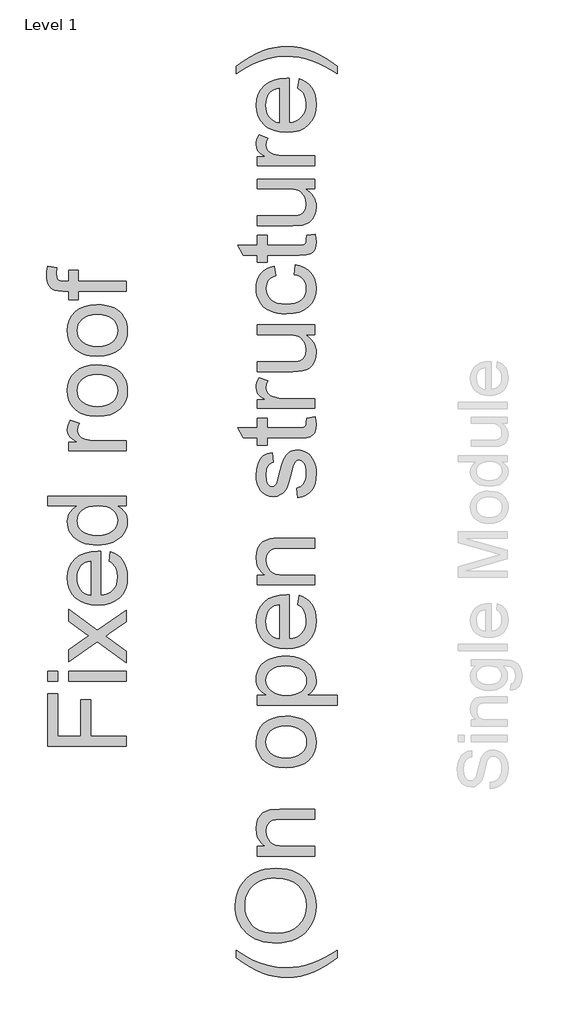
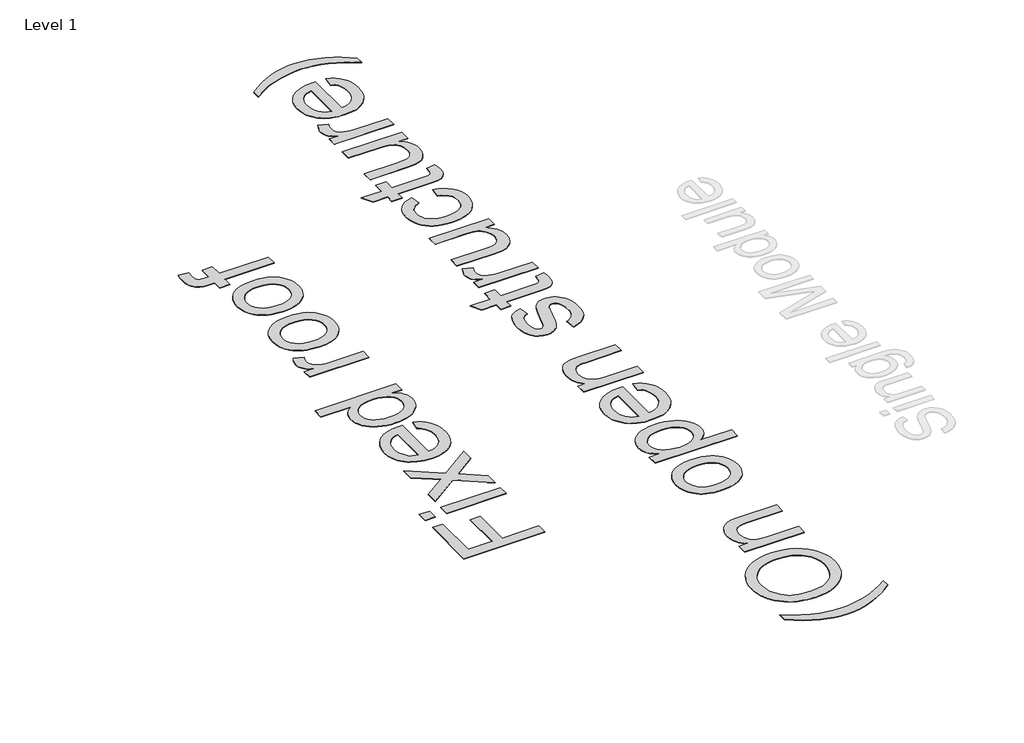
# One storey, part 54 of 80: 1 proxy.
"""IFC4 building model written with IfcOpenShell, lengths in millimetres."""

import ifcopenshell
import ifcopenshell.guid

model = None  # the IFC model being written
_history = None  # IfcOwnerHistory: only IFC2X3 demands one
_inside = {}  # id of a spatial element -> (the spatial element, [elements in it])
_under = {}  # id of a project, library or spatial element -> (it, [spatial elements below it])
_declared = {}  # id of a project -> (the project, [libraries it declares])
_typed = {}  # id of a type object -> (the type object, [elements of that type])
_made_of = {}  # id of a material, layer set ... -> (it, [elements and type objects made of it])


def new_model(schema):
    """Start an empty IFC model of exactly this schema.

    Asked for "IFC4X3", IfcOpenShell would pick the latest addendum, in which some entities
    have other attributes; the version numbers below select the first issue.
    IFC2X3 requires an IfcOwnerHistory on every rooted entity: one is made here for all.
    """
    global model, _history
    if schema == "IFC4X3":
        model = ifcopenshell.file(schema_version=(4, 3, 0, 0))
    else:
        model = ifcopenshell.file(schema=schema)
    _inside.clear()
    _under.clear()
    _declared.clear()
    _typed.clear()
    _made_of.clear()
    _history = None
    if model.schema == "IFC2X3":
        org = make("IfcOrganization", Name="unknown")
        user = make(
            "IfcPersonAndOrganization",
            ThePerson=make("IfcPerson", FamilyName="unknown"),
            TheOrganization=org,
        )
        app = make(
            "IfcApplication",
            ApplicationDeveloper=org,
            Version="unknown",
            ApplicationFullName="unknown",
            ApplicationIdentifier="unknown",
        )
        _history = make(
            "IfcOwnerHistory",
            OwningUser=user,
            OwningApplication=app,
            ChangeAction="ADDED",
            CreationDate=0,
        )
    return model


def make(cls, **values):
    """One entity of the class cls with the attributes given. An attribute that is None is left unset."""
    return model.create_entity(
        cls, **{name: value for name, value in values.items() if value is not None}
    )


def rooted(cls, **values):
    """An entity with a GlobalId (a new one), such as an element, a storey or a relation."""
    return make(cls, GlobalId=ifcopenshell.guid.new(), OwnerHistory=_history, **values)


def si_unit(unit_type, name, prefix=None):
    """IfcSIUnit, for example si_unit("LENGTHUNIT", "METRE", prefix="MILLI")."""
    return make("IfcSIUnit", UnitType=unit_type, Prefix=prefix, Name=name)


def assignment(units):
    """IfcUnitAssignment: the units of a project."""
    return None if units is None else make("IfcUnitAssignment", Units=units)


def point(xyz):
    """IfcCartesianPoint."""
    return None if xyz is None else make("IfcCartesianPoint", Coordinates=xyz)


def direction(xyz):
    """IfcDirection."""
    return None if xyz is None else make("IfcDirection", DirectionRatios=xyz)


def frame(location, z_axis=None, x_axis=None):
    """IfcAxis2Placement3D, a coordinate frame: its origin and axes. An axis left out is left unset."""
    return make(
        "IfcAxis2Placement3D",
        Location=point(location),
        Axis=direction(z_axis),
        RefDirection=direction(x_axis),
    )


def origin():
    """The frame at (0, 0, 0) with its axes left unset."""
    return frame((0.0, 0.0, 0.0))


def origin_with_axes():
    """The frame at (0, 0, 0) with the z axis (0, 0, 1) and the x axis (1, 0, 0) written out."""
    return frame((0.0, 0.0, 0.0), z_axis=(0.0, 0.0, 1.0), x_axis=(1.0, 0.0, 0.0))


def place(relative_to, where):
    """IfcLocalPlacement: puts the frame where relative to a parent placement (None: the world)."""
    return make(
        "IfcLocalPlacement", PlacementRelTo=relative_to, RelativePlacement=where
    )


def context(
    kind, dimensions, precision=None, world=None, true_north=None, identifier=None
):
    """IfcGeometricRepresentationContext, for example the 3D "Model" context."""
    return make(
        "IfcGeometricRepresentationContext",
        ContextIdentifier=identifier,
        ContextType=kind,
        CoordinateSpaceDimension=dimensions,
        Precision=precision,
        WorldCoordinateSystem=world,
        TrueNorth=true_north,
    )


def project(units=None, contexts=None):
    """IfcProject with its units and contexts."""
    return rooted(
        "IfcProject",
        Name="project",
        RepresentationContexts=contexts,
        UnitsInContext=assignment(units),
    )


def spatial(cls, under=None, at=None, **own):
    """A site, building, storey or space (cls), placed at a placement, below another one or the project."""
    s = rooted(cls, ObjectPlacement=at, **own)
    if under is not None:
        _under.setdefault(under.id(), (under, []))[1].append(s)
    return s


def polyline(points):
    """IfcPolyline through the points."""
    return make("IfcPolyline", Points=[point(p) for p in points])


def outline(outer, holes=None, kind="AREA"):
    """IfcArbitraryClosedProfileDef: a profile drawn as a closed curve; with holes, ...WithVoids."""
    if holes is None:
        return make("IfcArbitraryClosedProfileDef", ProfileType=kind, OuterCurve=outer)
    return make(
        "IfcArbitraryProfileDefWithVoids",
        ProfileType=kind,
        OuterCurve=outer,
        InnerCurves=holes,
    )


def extrude(swept, where, along, depth):
    """IfcExtrudedAreaSolid: the profile swept, set in the frame where, extruded along a direction by depth."""
    return make(
        "IfcExtrudedAreaSolid",
        SweptArea=swept,
        Position=where,
        ExtrudedDirection=direction(along),
        Depth=depth,
    )


def shape(context_of_items, identifier, shape_type, items):
    """IfcShapeRepresentation: the items that make up one representation, for example the "Body"."""
    return make(
        "IfcShapeRepresentation",
        ContextOfItems=context_of_items,
        RepresentationIdentifier=identifier,
        RepresentationType=shape_type,
        Items=items,
    )


def made_of(thing, what):
    """Note that an element or type object is made of a material, layer set ...; save() writes the relation."""
    if what is not None:
        _made_of.setdefault(what.id(), (what, []))[1].append(thing)
    return thing


def element(
    cls,
    number,
    at=None,
    inside=None,
    cuts=None,
    type_object=None,
    material=None,
    context=None,
    identifier="Body",
    shape_type=None,
    held_by="IfcProductDefinitionShape",
    body=None,
    shapes=None,
    **own,
):
    """One element of the class cls, such as IfcWall. Its Tag is "e" and its number.

    at: its placement. inside: the storey or other place that contains it. cuts: it is an
    opening in that element (IfcRelVoidsElement). A single representation is given by context,
    identifier, shape_type and body (its items); several are given by shapes. held_by: the class
    of the entity that holds the representations. save() writes the other relations.
    """
    e = rooted(cls, Tag="e%d" % number, ObjectPlacement=at, **own)
    if body is not None:
        shapes = [shape(context, identifier, shape_type, body)]
    if shapes is not None:
        e.Representation = make(held_by, Representations=shapes)
    if inside is not None:
        _inside.setdefault(inside.id(), (inside, []))[1].append(e)
    if cuts is not None:
        rooted(
            "IfcRelVoidsElement", RelatingBuildingElement=cuts, RelatedOpeningElement=e
        )
    if type_object is not None:
        _typed.setdefault(type_object.id(), (type_object, []))[1].append(e)
    return made_of(e, material)


def aggregate(whole, parts):
    """IfcRelAggregates: a whole, such as a stair, and the parts it consists of."""
    return rooted("IfcRelAggregates", RelatingObject=whole, RelatedObjects=parts)


def save(model, path):
    """Write the relations noted so far, then the file.

    IfcRelAggregates (storeys below a building ...), IfcRelContainedInSpatialStructure (elements
    in a storey), IfcRelDefinesByType, IfcRelAssociatesMaterial and IfcRelDeclares: one each for
    every whole, place, type object, material and project.
    """
    for whole, parts in _under.values():
        aggregate(whole, parts)
    for where, things in _inside.values():
        rooted(
            "IfcRelContainedInSpatialStructure",
            RelatedElements=things,
            RelatingStructure=where,
        )
    for kind, things in _typed.values():
        rooted("IfcRelDefinesByType", RelatedObjects=things, RelatingType=kind)
    for what, things in _made_of.values():
        rooted("IfcRelAssociatesMaterial", RelatedObjects=things, RelatingMaterial=what)
    for by, libraries in _declared.values():
        rooted("IfcRelDeclares", RelatingContext=by, RelatedDefinitions=libraries)
    model.write(path)


model = new_model("IFC4")

# Units and contexts
model_context = context("Model", 3, world=origin())
ifc_project = project(units=[si_unit("LENGTHUNIT", "METRE", prefix="MILLI")], contexts=[model_context])

# Site, building, storey
site = spatial("IfcSite", under=ifc_project)
building = spatial("IfcBuilding", under=site)
storey = spatial("IfcBuildingStorey", under=building, Name="Level 1", Elevation=0.0)

# Proxy
placement = place(None, origin())
element("IfcBuildingElementProxy", 1, Name="800mm Arial", ObjectType="800mm Arial", at=placement, inside=storey, context=model_context, shape_type="SweptSolid", body=[
    extrude(outline(polyline([(70531.971127, 66013.7751549), (69732.5824286, 66013.7751549), (69732.5824286, 66550.8644366), (69832.5060159, 66550.8644366), (69832.5060159, 66113.6987422), (70069.8245357, 66113.6987422), (70069.8245357, 66488.4121945), (70169.748123, 66488.4121945), (70169.748123, 66113.6987422), (70531.971127, 66113.6987422), (70531.971127, 66013.7751549)])), origin_with_axes(), (0.0, 0.0, 1.0), 5.0),
    extrude(outline(polyline([(69832.5060159, 66675.7689207), (69732.5824286, 66675.7689207), (69732.5824286, 66775.692508), (69832.5060159, 66775.692508), (69832.5060159, 66675.7689207)])), origin_with_axes(), (0.0, 0.0, 1.0), 5.0),
    extrude(outline(polyline([(70531.971127, 66675.7689207), (69944.9200516, 66675.7689207), (69944.9200516, 66775.692508), (70531.971127, 66775.692508), (70531.971127, 66675.7689207)])), origin_with_axes(), (0.0, 0.0, 1.0), 5.0),
    extrude(outline(polyline([(70531.971127, 66863.1256469), (70236.8842832, 67076.6342494), (69944.9200516, 66875.6160953), (69944.9200516, 66995.8366612), (70085.4375962, 67092.8327997), (70151.7931034, 67138.1106752), (70097.5377181, 67177.3384897), (69944.9200516, 67287.8008929), (69944.9200516, 67408.0214588), (70236.8842832, 67196.8548154), (70531.971127, 67400.2149286), (70531.971127, 67279.9943626), (70354.5677269, 67157.6270008), (70322.1706263, 67135.1832263), (70531.971127, 66983.3462128), (70531.971127, 66863.1256469)])), origin_with_axes(), (0.0, 0.0, 1.0), 5.0),
    extrude(outline(polyline([(70357.1048492, 67898.6618855), (70369.5952976, 67996.6338402), (70408.8353099, 67981.6123683), (70443.4157994, 67961.3336862), (70473.3367661, 67935.7977939), (70498.5982101, 67905.0046913), (70518.6634324, 67869.2715188), (70532.9957341, 67828.9154167), (70541.595115, 67783.936385), (70544.4615754, 67734.3344236), (70539.5154066, 67672.3334966), (70524.6769002, 67617.0900973), (70499.9460563, 67568.6042258), (70465.3228749, 67526.875882), (70421.7709744, 67493.3199996), (70370.2539736, 67469.3515122), (70310.7718723, 67454.9704197), (70243.3246707, 67450.1767222), (70173.5903996, 67455.0192105), (70112.1261716, 67469.5466754), (70058.9319865, 67493.7591169), (70035.4361601, 67509.4972039), (70014.0078444, 67527.656535), (69978.3173639, 67569.2750995), (69952.8241635, 67616.6509799), (69937.5282433, 67669.7841765), (69932.4296032, 67728.6746891), (69937.5160456, 67785.6684589), (69952.7753727, 67837.2098551), (69978.2075845, 67883.2988779), (70013.8126811, 67923.9355272), (70058.6392416, 67957.1071819), (70111.735845, 67980.801221), (70173.1024915, 67995.0176445), (70242.7391809, 67999.7564523), (70269.6717103, 67999.1709626), (70269.6717103, 67550.1003095), (70309.5460031, 67555.8881198), (70344.4680283, 67567.3966531), (70374.4377859, 67584.6259093), (70399.4552758, 67607.5758885), (70419.1789624, 67634.9780295), (70433.26731, 67665.5637711), (70441.7203186, 67699.3331133), (70444.5379881, 67736.2860561), (70439.317371, 67789.4680435), (70423.6555196, 67834.2580109), (70411.6651771, 67853.505987), (70396.5766178, 67870.6559582), (70378.3898419, 67885.7079243), (70357.1048492, 67898.6618855)]), holes=[polyline([(70169.748123, 67550.1003095), (70169.748123, 67899.832865), (70141.4738462, 67894.6976318), (70116.9564622, 67886.3178095), (70096.1959708, 67874.6933981), (70079.192372, 67859.8243975), (70058.7002301, 67832.5747278), (70044.0629859, 67801.5681654), (70035.2806393, 67766.8047104), (70032.3531905, 67728.2843626), (70034.6890507, 67693.1488776), (70041.6966314, 67660.9286438), (70053.3759325, 67631.623661), (70069.7269541, 67605.2339294), (70089.9934385, 67583.0889987), (70113.4191281, 67566.5184185), (70140.004023, 67555.5221887), (70169.748123, 67550.1003095)])]), origin_with_axes(), (0.0, 0.0, 1.0), 5.0),
    extrude(outline(polyline([(70531.971127, 68461.9030436), (70437.7072741, 68461.9030436), (70484.4122809, 68432.0064722), (70502.7606764, 68414.6887826), (70517.7730001, 68395.7914904), (70529.4492518, 68375.3145956), (70537.7894315, 68353.2580982), (70542.7935394, 68329.6219982), (70544.4615754, 68304.4062956), (70542.0464301, 68271.4237053), (70534.8009942, 68239.8072577), (70522.7252677, 68209.556953), (70505.8192506, 68180.672791), (70484.5891476, 68154.0574019), (70459.5411634, 68130.6134158), (70430.675298, 68110.3408325), (70397.9915514, 68093.2396522), (70362.1120065, 68079.6636081), (70323.6587461, 68069.9664338), (70282.6317703, 68064.1481292), (70239.0310791, 68062.2086944), (70196.2293374, 68063.9956579), (70155.4524145, 68069.3565486), (70116.7003104, 68078.2913665), (70079.9730251, 68090.8001114), (70046.3439564, 68106.8766847), (70016.8865024, 68126.5149874), (69991.600663, 68149.7150195), (69970.4864382, 68176.476781), (69953.8365729, 68205.85495), (69941.943812, 68236.9042043), (69934.8081554, 68269.624544), (69932.4296032, 68304.0159691), (69934.1311828, 68329.1676338), (69939.2359218, 68352.9043648), (69947.74382, 68375.2261623), (69959.6548775, 68396.1330261), (69990.9541847, 68432.7749275), (70030.4015579, 68461.9030436), (69732.5824286, 68461.9030436), (69732.5824286, 68561.8266308), (70531.971127, 68561.8266308), (70531.971127, 68461.9030436)]), holes=[polyline([(70238.6407525, 68162.1322817), (70287.0961298, 68164.9499512), (70329.0257357, 68173.4029597), (70364.4295702, 68187.4913073), (70393.3076333, 68207.2149939), (70415.7209135, 68230.7687594), (70431.7303994, 68256.3473437), (70441.3360909, 68283.9507468), (70444.5379881, 68313.5789687), (70441.4824633, 68343.3474641), (70432.3158891, 68370.7861982), (70417.0382655, 68395.8951709), (70395.6495923, 68418.6743823), (70367.9791019, 68437.5869216), (70333.8560263, 68451.0958782), (70293.2803655, 68459.2012522), (70246.2521195, 68461.9030436), (70194.6924267, 68459.1524614), (70150.4757514, 68450.900715), (70113.6020937, 68437.1478042), (70084.0714534, 68417.8937292), (70061.4447134, 68394.614412), (70045.2827562, 68368.7857748), (70035.5855819, 68340.4078176), (70032.3531905, 68309.4805403), (70035.457506, 68279.2668286), (70044.7704527, 68251.6634256), (70060.2920304, 68226.670331), (70082.0222393, 68204.2875451), (70110.4367896, 68185.8446173), (70146.011392, 68172.6710975), (70188.7460463, 68164.7669856), (70238.6407525, 68162.1322817)])]), origin_with_axes(), (0.0, 0.0, 1.0), 5.0),
    extrude(outline(polyline([(70531.971127, 69023.9732221), (69944.9200516, 69023.9732221), (69944.9200516, 69111.406361), (70031.7677007, 69111.406361), (69981.4155806, 69143.7058799), (69963.9972599, 69158.9042185), (69951.7507656, 69173.4682765), (69937.2598938, 69203.3282547), (69932.4296032, 69235.9205186), (69934.3568404, 69260.7062521), (69940.1385518, 69285.6871489), (69949.7747376, 69310.863209), (69963.2653977, 69336.2344324), (70052.8453324, 69302.8615155), (70037.476226, 69267.7321294), (70032.3531905, 69232.6027432), (70037.2810627, 69202.7671604), (70052.0646794, 69176.1029805), (70075.5818518, 69154.561836), (70106.7103912, 69140.0953597), (70162.5270825, 69127.9464469), (70223.4180185, 69123.8968094), (70531.971127, 69123.8968094), (70531.971127, 69023.9732221)])), origin_with_axes(), (0.0, 0.0, 1.0), 5.0),
    extrude(outline(polyline([(70238.4455893, 69373.7057776), (70162.4173032, 69379.1093603), (70128.3460678, 69385.8638386), (70096.9034376, 69395.3201082), (70068.0894124, 69407.4781692), (70041.9039924, 69422.3380216), (70018.3471774, 69439.8996652), (69997.4189676, 69460.1631002), (69968.9861207, 69498.2443306), (69948.6769443, 69540.277617), (69936.4914385, 69586.2629593), (69932.4296032, 69636.2003575), (69937.375772, 69691.3278786), (69952.2142783, 69741.1737941), (69976.9451222, 69785.7381039), (70011.5683037, 69825.0208081), (70054.9128432, 69857.0824718), (70105.8077611, 69879.9836602), (70164.2530576, 69893.7243732), (70230.2487325, 69898.3046109), (70283.7356625, 69896.2797921), (70331.1969269, 69890.2053357), (70372.6325258, 69880.0812418), (70408.0424591, 69865.9075103), (70438.6282007, 69847.861008), (70465.5912244, 69826.1186014), (70488.9315301, 69800.6802907), (70508.6491178, 69771.5460758), (70524.317068, 69739.8503432), (70535.508461, 69706.7274793), (70542.2232968, 69672.1774841), (70544.4615754, 69636.2003575), (70539.5337031, 69580.267788), (70524.7500865, 69529.9583598), (70500.1107253, 69485.2720729), (70465.6156198, 69446.2089274), (70421.8502595, 69414.4887993), (70369.4001344, 69391.831565), (70308.2652443, 69378.2372245), (70238.4455893, 69373.7057776)]), holes=[polyline([(70238.250426, 69473.6293649), (70286.718001, 69476.5202206), (70328.6842, 69485.1927878), (70364.149023, 69499.6470665), (70393.11247, 69519.8830567), (70415.6111342, 69544.4980224), (70431.6816086, 69572.0892278), (70441.3238932, 69602.6566728), (70444.5379881, 69636.2003575), (70441.3055966, 69669.5732743), (70431.6084223, 69700.0187424), (70415.4464652, 69727.5367615), (70392.8197251, 69752.1273318), (70363.5696321, 69772.363322), (70327.5376158, 69786.8176007), (70284.7236765, 69795.4901679), (70235.1278139, 69798.3810236), (70188.1971496, 69795.4718713), (70147.3287439, 69786.7444144), (70112.5225969, 69772.198653), (70083.7787086, 69751.8345869), (70061.2800444, 69727.1525338), (70045.20957, 69699.6528112), (70035.5672854, 69669.3354191), (70032.3531905, 69636.2003575), (70035.5550877, 69602.6566728), (70045.1607792, 69572.0892278), (70061.1702651, 69544.4980224), (70083.5835453, 69519.8830567), (70112.4616084, 69499.6470665), (70147.8654429, 69485.1927878), (70189.7950488, 69476.5202206), (70238.250426, 69473.6293649)])]), origin_with_axes(), (0.0, 0.0, 1.0), 5.0),
    extrude(outline(polyline([(70238.4455893, 69985.7377498), (70162.4173032, 69991.1413324), (70128.3460678, 69997.8958108), (70096.9034376, 70007.3520804), (70068.0894124, 70019.5101414), (70041.9039924, 70034.3699937), (70018.3471774, 70051.9316374), (69997.4189676, 70072.1950724), (69968.9861207, 70110.2763028), (69948.6769443, 70152.3095891), (69936.4914385, 70198.2949314), (69932.4296032, 70248.2323297), (69937.375772, 70303.3598508), (69952.2142783, 70353.2057662), (69976.9451222, 70397.7700761), (70011.5683037, 70437.0527803), (70054.9128432, 70469.114444), (70105.8077611, 70492.0156324), (70164.2530576, 70505.7563454), (70230.2487325, 70510.3365831), (70283.7356625, 70508.3117643), (70331.1969269, 70502.2373079), (70372.6325258, 70492.113214), (70408.0424591, 70477.9394825), (70438.6282007, 70459.8929801), (70465.5912244, 70438.1505736), (70488.9315301, 70412.7122629), (70508.6491178, 70383.578048), (70524.317068, 70351.8823154), (70535.508461, 70318.7594515), (70542.2232968, 70284.2094562), (70544.4615754, 70248.2323297), (70539.5337031, 70192.2997601), (70524.7500865, 70141.9903319), (70500.1107253, 70097.3040451), (70465.6156198, 70058.2408995), (70421.8502595, 70026.5207715), (70369.4001344, 70003.8635372), (70308.2652443, 69990.2691966), (70238.4455893, 69985.7377498)]), holes=[polyline([(70238.250426, 70085.6613371), (70286.718001, 70088.5521928), (70328.6842, 70097.22476), (70364.149023, 70111.6790387), (70393.11247, 70131.9150288), (70415.6111342, 70156.5299946), (70431.6816086, 70184.1211999), (70441.3238932, 70214.688645), (70444.5379881, 70248.2323297), (70441.3055966, 70281.6052465), (70431.6084223, 70312.0507145), (70415.4464652, 70339.5687337), (70392.8197251, 70364.159304), (70363.5696321, 70384.3952941), (70327.5376158, 70398.8495728), (70284.7236765, 70407.52214), (70235.1278139, 70410.4129958), (70188.1971496, 70407.5038435), (70147.3287439, 70398.7763866), (70112.5225969, 70384.2306251), (70083.7787086, 70363.8665591), (70061.2800444, 70339.184506), (70045.20957, 70311.6847834), (70035.5672854, 70281.3673913), (70032.3531905, 70248.2323297), (70035.5550877, 70214.688645), (70045.1607792, 70184.1211999), (70061.1702651, 70156.5299946), (70083.5835453, 70131.9150288), (70112.4616084, 70111.6790387), (70147.8654429, 70097.22476), (70189.7950488, 70088.5521928), (70238.250426, 70085.6613371)])]), origin_with_axes(), (0.0, 0.0, 1.0), 5.0),
    extrude(outline(polyline([(70531.971127, 70647.7315156), (70044.8436389, 70647.7315156), (70044.8436389, 70560.2983767), (69944.9200516, 70560.2983767), (69944.9200516, 70647.7315156), (69885.7855849, 70647.7315156), (69836.8483984, 70650.3662195), (69802.4508744, 70658.2703314), (69784.9715653, 70666.9550963), (69769.22433, 70678.3721468), (69742.9260812, 70709.4031046), (69732.936162, 70729.382943), (69725.8005055, 70752.8269292), (69721.5191115, 70779.7350632), (69720.0919802, 70810.1073449), (69722.8242658, 70853.4823787), (69731.0211226, 70901.2485857), (69824.6994857, 70886.6113415), (69820.0155675, 70829.0381808), (69824.1627867, 70791.054532), (69829.3468107, 70776.9478879), (69836.6044443, 70766.0980306), (69846.6919451, 70758.0292497), (69860.3655708, 70752.2658348), (69898.4711966, 70747.6551029), (69944.9200516, 70747.6551029), (69944.9200516, 70860.0691386), (70044.8436389, 70860.0691386), (70044.8436389, 70747.6551029), (70531.971127, 70747.6551029), (70531.971127, 70647.7315156)])), origin_with_axes(), (0.0, 0.0, 1.0), 5.0),
    extrude(outline(polyline([(72678.3354941, 63859.1728039), (72626.1415207, 63818.8349983), (72569.6783511, 63781.7417819), (72508.9459852, 63747.8931546), (72443.9444231, 63717.2891165), (72376.1983777, 63691.9300908), (72307.232562, 63673.8165011), (72237.0469759, 63662.9483472), (72165.6416195, 63659.3256293), (72102.8844348, 63662.0335195), (72041.4689976, 63670.15719), (71981.3953077, 63683.6966409), (71922.6633652, 63702.6518722), (71855.3076463, 63731.462848), (71788.0982999, 63767.1533285), (71721.0353259, 63809.7233138), (71654.1187244, 63859.1728039), (71654.1187244, 63934.1154944), (71749.1144394, 63875.3225634), (71812.3961253, 63840.6322945), (71887.5339791, 63808.7231021), (71965.7944449, 63784.4252767), (72065.766823, 63765.5432316), (72166.2271092, 63759.2492166), (72230.2833493, 63761.9815022), (72294.3273917, 63770.1783589), (72358.3592363, 63783.8397869), (72422.3788833, 63802.965786), (72486.3863326, 63827.5563563), (72550.3815841, 63857.6114978), (72614.364638, 63893.1312105), (72678.3354941, 63934.1154944), (72678.3354941, 63859.1728039)])), origin_with_axes(), (0.0, 0.0, 1.0), 5.0),
    extrude(outline(polyline([(72064.3518894, 64009.0581848), (72016.1252191, 64010.7231714), (71970.5881424, 64015.7181309), (71927.7406593, 64024.0430636), (71887.5827699, 64035.6979693), (71850.1144741, 64050.6828481), (71815.3357719, 64068.9977), (71783.2466633, 64090.6425249), (71753.8471484, 64115.6173228), (71727.5458502, 64143.2237753), (71704.7513917, 64172.7635639), (71685.463773, 64204.2366884), (71669.6829941, 64237.6431489), (71657.4090549, 64272.9829455), (71648.6419555, 64310.256078), (71643.3816958, 64349.4625466), (71641.6282759, 64390.6023511), (71644.9216559, 64444.382026), (71654.8017958, 64495.4538107), (71671.2686955, 64543.8177051), (71694.3223552, 64589.4737094), (71723.2675057, 64631.1410647), (71757.4088778, 64667.539012), (71796.7464717, 64698.6675514), (71841.2802873, 64724.5266829), (71889.9979152, 64744.848057), (71941.886946, 64759.3633242), (71996.9473797, 64768.0724845), (72055.1792163, 64770.9755379), (72114.1795083, 64767.9200132), (72169.9840019, 64758.753439), (72222.5926972, 64743.4758153), (72272.0055942, 64722.0871422), (72316.9175386, 64695.0936243), (72356.0233761, 64663.0014663), (72389.3231067, 64625.8106683), (72416.8167305, 64583.5212301), (72438.3334795, 64537.7981385), (72453.702586, 64490.3063798), (72462.9240498, 64441.0459541), (72465.9978711, 64390.0168614), (72462.6008107, 64335.2979634), (72452.4096294, 64283.555305), (72435.4243272, 64234.7888863), (72411.6449042, 64188.9987072), (72381.9922869, 64147.3801428), (72347.387402, 64111.1285679), (72307.8302495, 64080.2439826), (72263.3208293, 64054.7263868), (72215.6461051, 64034.7465484), (72166.5930403, 64020.4752353), (72116.1616351, 64011.9124474), (72064.3518894, 64009.0581848)]), holes=[polyline([(72065.3277057, 64108.9817721), (72131.5734335, 64113.9767317), (72190.3785622, 64128.9616105), (72241.7430918, 64153.9364085), (72285.6670222, 64188.9011256), (72320.8451991, 64231.4040236), (72345.9724684, 64278.9933639), (72361.04883, 64331.6691466), (72366.0742838, 64389.4313716), (72361.0000392, 64448.1816106), (72345.7773052, 64501.4794762), (72320.4060818, 64549.3249683), (72284.8863691, 64591.7180869), (72263.5251408, 64610.3119612), (72240.0354133, 64626.4266523), (72186.6704603, 64651.2184847), (72124.7915104, 64666.0935842), (72054.3985633, 64671.0519506), (72008.6693728, 64668.9295502), (71965.9408173, 64662.562349), (71926.2128969, 64651.9503469), (71889.4856116, 64637.093544), (71856.2407707, 64618.1566093), (71826.9601833, 64595.3042117), (71801.6438497, 64568.5363513), (71780.2917696, 64537.8530281), (71763.3430606, 64504.2056629), (71751.2368398, 64468.5456767), (71743.9731074, 64430.8730693), (71741.5518632, 64391.1878409), (71746.2174848, 64335.4321381), (71760.2143496, 64283.7016774), (71783.5424576, 64235.9964589), (71816.2018088, 64192.3164826), (71836.4240766, 64172.7849098), (71859.765907, 64155.8575468), (71886.2273001, 64141.5343934), (71915.8082558, 64129.8154497), (71948.5087743, 64120.7007158), (71984.3288554, 64114.1901915), (72065.3277057, 64108.9817721)])]), origin_with_axes(), (0.0, 0.0, 1.0), 5.0),
    extrude(outline(polyline([(72453.5074227, 64895.880022), (71866.4563474, 64895.880022), (71866.4563474, 64995.8036093), (71948.4249151, 64995.8036093), (71926.2860832, 65012.2888057), (71907.0990955, 65030.5182736), (71890.8639521, 65050.4920131), (71877.580653, 65072.2100242), (71867.2491981, 65095.672307), (71859.8695875, 65120.8788613), (71853.9658989, 65176.5247848), (71858.7230033, 65225.7791116), (71872.9943164, 65270.8862193), (71894.9989736, 65308.503937), (71922.9561101, 65335.2900939), (71956.7925397, 65353.4646722), (71996.4350761, 65365.2476538), (72034.3455387, 65369.1997097), (72093.0408881, 65370.5170617), (72453.5074227, 65370.5170617), (72453.5074227, 65270.5934744), (72106.5071528, 65270.5934744), (72054.8376806, 65267.7148164), (72018.0981976, 65259.0788423), (71991.7755534, 65243.1486415), (71971.3565977, 65218.3873033), (71958.2562641, 65186.6488787), (71953.8894862, 65149.7874187), (71956.3412246, 65119.4456311), (71963.6964399, 65091.2628371), (71975.9551319, 65065.2390367), (71993.1173008, 65041.3742297), (72017.134579, 65021.4370833), (72049.9585992, 65007.1962644), (72091.5893614, 64998.6517731), (72142.0268654, 64995.8036093), (72453.5074227, 64995.8036093), (72453.5074227, 64895.880022)])), origin_with_axes(), (0.0, 0.0, 1.0), 5.0),
    extrude(outline(polyline([(72159.981885, 65795.1923077), (72083.9535989, 65800.5958903), (72049.8823636, 65807.3503687), (72018.4397333, 65816.8066383), (71989.6257081, 65828.9646993), (71963.4402881, 65843.8245516), (71939.8834732, 65861.3861953), (71918.9552633, 65881.6496303), (71890.5224164, 65919.7308607), (71870.21324, 65961.764147), (71858.0277342, 66007.7494893), (71853.9658989, 66057.6868876), (71858.9120677, 66112.8144087), (71873.7505741, 66162.6603241), (71898.481418, 66207.224634), (71933.1045994, 66246.5073382), (71976.4491389, 66278.5690019), (72027.3440569, 66301.4701903), (72085.7893533, 66315.2109033), (72151.7850283, 66319.791141), (72205.2719582, 66317.7663222), (72252.7332226, 66311.6918658), (72294.1688215, 66301.5677719), (72329.5787549, 66287.3940404), (72360.1644965, 66269.347538), (72387.1275201, 66247.6051315), (72410.4678258, 66222.1668208), (72430.1854136, 66193.0326059), (72445.8533637, 66161.3368733), (72457.0447567, 66128.2140094), (72463.7595925, 66093.6640141), (72465.9978711, 66057.6868876), (72461.0699989, 66001.7543181), (72446.2863822, 65951.4448899), (72421.6470211, 65906.758603), (72387.1519155, 65867.6954574), (72343.3865553, 65835.9753294), (72290.9364301, 65813.3180951), (72229.80154, 65799.7237545), (72159.981885, 65795.1923077)]), holes=[polyline([(72159.7867218, 65895.115895), (72208.2542967, 65898.0067507), (72250.2204957, 65906.6793179), (72285.6853187, 65921.1335966), (72314.6487658, 65941.3695867), (72337.1474299, 65965.9845525), (72353.2179043, 65993.5757578), (72362.8601889, 66024.1432029), (72366.0742838, 66057.6868876), (72362.8418924, 66091.0598044), (72353.1447181, 66121.5052724), (72336.9827609, 66149.0232916), (72314.3560209, 66173.6138619), (72285.1059278, 66193.849852), (72249.0739116, 66208.3041307), (72206.2599722, 66216.9766979), (72156.6641097, 66219.8675537), (72109.7334454, 66216.9584014), (72068.8650397, 66208.2309445), (72034.0588927, 66193.6851831), (72005.3150043, 66173.321117), (71982.8163402, 66148.6390639), (71966.7458658, 66121.1393413), (71957.1035811, 66090.8219492), (71953.8894862, 66057.6868876), (71957.0913834, 66024.1432029), (71966.6970749, 65993.5757578), (71982.7065608, 65965.9845525), (72005.1198411, 65941.3695867), (72033.9979042, 65921.1335966), (72069.4017386, 65906.6793179), (72111.3313445, 65898.0067507), (72159.7867218, 65895.115895)])]), origin_with_axes(), (0.0, 0.0, 1.0), 5.0),
    extrude(outline(polyline([(72678.3354941, 66432.2051767), (71866.4563474, 66432.2051767), (71866.4563474, 66532.128764), (71964.4283021, 66532.128764), (71916.1010007, 66564.7210278), (71897.1152752, 66582.4808841), (71881.5814997, 66601.2165567), (71869.4996744, 66621.4647446), (71860.8697991, 66643.7621466), (71855.691874, 66668.1087629), (71853.9658989, 66694.5045933), (71856.3810442, 66729.3534323), (71863.6264801, 66762.0798709), (71875.7022066, 66792.683909), (71892.6082237, 66821.1655467), (71913.9054141, 66846.9027012), (71939.1546604, 66869.2732894), (71968.3559626, 66888.2773115), (72001.5093208, 66903.9147675), (72037.4803485, 66916.1246687), (72075.1346593, 66924.8460267), (72114.4722532, 66930.0788415), (72155.4931301, 66931.8231131), (72199.3499732, 66929.853184), (72240.950241, 66923.9433967), (72280.2939338, 66914.0937511), (72317.3810513, 66900.3042472), (72351.2418763, 66882.7639495), (72380.9066913, 66861.6619224), (72406.3754963, 66836.9981659), (72427.6482912, 66808.77268), (72444.4262324, 66778.3699039), (72456.4104761, 66747.1742771), (72463.6010224, 66715.1857996), (72465.9978711, 66682.4044714), (72464.3938731, 66658.8202116), (72459.5818791, 66636.4679199), (72451.561889, 66615.3475963), (72440.3339029, 66595.4592407), (72411.2789731, 66560.3542499), (72375.4421201, 66532.128764), (72678.3354941, 66532.128764), (72678.3354941, 66432.2051767)]), holes=[polyline([(72164.6658032, 66532.128764), (72212.8223367, 66534.8305553), (72254.2457379, 66542.9359293), (72288.9360067, 66556.4448859), (72316.8931432, 66575.3574253), (72338.4098922, 66598.1244389), (72353.7789987, 66623.1968185), (72363.0004625, 66650.5745641), (72366.0742838, 66680.2576756), (72362.8906832, 66710.3677067), (72353.3398813, 66738.2455582), (72337.4218782, 66763.8912298), (72315.1366739, 66787.3047217), (72286.167128, 66806.8149485), (72250.1961003, 66820.7508248), (72207.2235908, 66829.1123506), (72157.2495994, 66831.8995258), (72109.5077878, 66829.179438), (72068.1575729, 66821.0191743), (72033.1989546, 66807.4187349), (72004.6319329, 66788.3781197), (71982.4321125, 66765.5562164), (71966.5750979, 66740.6119126), (71957.0608892, 66713.5452085), (71953.8894862, 66684.356104), (71957.2621513, 66655.2584822), (71967.3801463, 66627.8807366), (71984.2434715, 66602.2228673), (72007.8521266, 66578.2848741), (72037.8889716, 66558.0915759), (72074.036866, 66543.6677915), (72116.2958098, 66535.0135208), (72164.6658032, 66532.128764)])]), origin_with_axes(), (0.0, 0.0, 1.0), 5.0),
    extrude(outline(polyline([(72278.6411449, 67455.2509669), (72291.1315934, 67553.2229216), (72330.3716056, 67538.2014497), (72364.9520951, 67517.9227676), (72394.8730618, 67492.3868753), (72420.1345059, 67461.5937727), (72440.1997282, 67425.8606002), (72454.5320298, 67385.5044981), (72463.1314108, 67340.5254664), (72465.9978711, 67290.923505), (72461.0517023, 67228.9225779), (72446.213196, 67173.6791787), (72421.4823521, 67125.1933071), (72386.8591706, 67083.4649634), (72343.3072702, 67049.909081), (72291.7902693, 67025.9405935), (72232.3081681, 67011.5595011), (72164.8609664, 67006.7658036), (72095.1266954, 67011.6082919), (72033.6624673, 67026.1357568), (71980.4682822, 67050.3481983), (71956.9724558, 67066.0862853), (71935.5441401, 67084.2456164), (71899.8536596, 67125.8641808), (71874.3604592, 67173.2400613), (71859.064539, 67226.3732579), (71853.9658989, 67285.2637705), (71859.0523413, 67342.2575403), (71874.3116684, 67393.7989365), (71899.7438803, 67439.8879593), (71935.3489769, 67480.5246086), (71980.1755373, 67513.6962633), (72033.2721408, 67537.3903024), (72094.6387872, 67551.6067259), (72164.2754767, 67556.3455337), (72191.2080061, 67555.7600439), (72191.2080061, 67106.6893909), (72231.0822989, 67112.4772012), (72266.0043241, 67123.9857345), (72295.9740817, 67141.2149907), (72320.9915716, 67164.1649699), (72340.7152582, 67191.5671109), (72354.8036058, 67222.1528525), (72363.2566143, 67255.9221947), (72366.0742838, 67292.8751375), (72360.8536667, 67346.0571249), (72345.1918154, 67390.8470923), (72333.2014728, 67410.0950684), (72318.1129136, 67427.2450396), (72299.9261376, 67442.2970057), (72278.6411449, 67455.2509669)]), holes=[polyline([(72091.2844188, 67106.6893909), (72091.2844188, 67456.4219464), (72063.010142, 67451.2867132), (72038.4927579, 67442.9068909), (72017.7322665, 67431.2824795), (72000.7286678, 67416.4134789), (71980.2365259, 67389.1638092), (71965.5992816, 67358.1572468), (71956.8169351, 67323.3937918), (71953.8894862, 67284.873444), (71956.2253465, 67249.737959), (71963.2329271, 67217.5177251), (71974.9122283, 67188.2127424), (71991.2632498, 67161.8230108), (72011.5297343, 67139.6780801), (72034.9554239, 67123.1074998), (72061.5403187, 67112.1112701), (72091.2844188, 67106.6893909)])]), origin_with_axes(), (0.0, 0.0, 1.0), 5.0),
    extrude(outline(polyline([(72453.5074227, 67656.269121), (71866.4563474, 67656.269121), (71866.4563474, 67756.1927083), (71948.4249151, 67756.1927083), (71926.2860832, 67772.6779046), (71907.0990955, 67790.9073725), (71890.8639521, 67810.8811121), (71877.580653, 67832.5991232), (71867.2491981, 67856.0614059), (71859.8695875, 67881.2679603), (71853.9658989, 67936.9138838), (71858.7230033, 67986.1682106), (71872.9943164, 68031.2753182), (71894.9989736, 68068.8930359), (71922.9561101, 68095.6791929), (71956.7925397, 68113.8537711), (71996.4350761, 68125.6367527), (72034.3455387, 68129.5888087), (72093.0408881, 68130.9061606), (72453.5074227, 68130.9061606), (72453.5074227, 68030.9825734), (72106.5071528, 68030.9825734), (72054.8376806, 68028.1039153), (72018.0981976, 68019.4679412), (71991.7755534, 68003.5377404), (71971.3565977, 67978.7764023), (71958.2562641, 67947.0379777), (71953.8894862, 67910.1765176), (71956.3412246, 67879.8347301), (71963.6964399, 67851.6519361), (71975.9551319, 67825.6281356), (71993.1173008, 67801.7633287), (72017.134579, 67781.8261823), (72049.9585992, 67767.5853634), (72091.5893614, 67759.0408721), (72142.0268654, 67756.1927083), (72453.5074227, 67756.1927083), (72453.5074227, 67656.269121)])), origin_with_axes(), (0.0, 0.0, 1.0), 5.0),
    extrude(outline(polyline([(72278.6411449, 68543.0909582), (72266.1506965, 68643.0145455), (72288.9360067, 68649.0524088), (72308.8914497, 68658.7739785), (72326.0170254, 68672.1792547), (72340.312734, 68689.2682373), (72351.583412, 68710.0897172), (72359.6338964, 68734.6924852), (72364.464187, 68763.0765413), (72366.0742838, 68795.2418855), (72364.5983617, 68827.3706366), (72360.1705953, 68855.0594236), (72352.7909847, 68878.3082466), (72342.4595298, 68897.1171054), (72330.1398492, 68911.6323726), (72316.7955616, 68922.0004206), (72302.4266668, 68928.2212494), (72287.033165, 68930.294859), (72273.5425049, 68928.2090517), (72261.56436, 68921.9516298), (72251.0987304, 68911.5225933), (72242.145616, 68896.9219421), (72229.4600043, 68859.4993877), (72213.6517805, 68794.070906), (72187.2803455, 68702.8808744), (72164.7633848, 68643.6000353), (72140.1972099, 68605.5188049), (72124.9317839, 68590.4119491), (72107.6781323, 68577.9275995), (72069.2797616, 68561.1679549), (72027.0757074, 68555.5814066), (71988.3601964, 68560.0701615), (71952.6209251, 68573.5364262), (71921.272827, 68594.7604304), (71895.7308358, 68622.5224036), (71879.6542626, 68650.113609), (71866.1636025, 68686.0480436), (71857.0153248, 68727.5934218), (71853.9658989, 68772.017458), (71858.8693758, 68837.0556132), (71873.5798062, 68893.6041668), (71896.6578613, 68939.0772055), (71910.7949997, 68956.6906894), (71926.664212, 68970.8888163), (71965.8188403, 68991.966448), (72016.3417283, 69005.2375495), (72028.8321767, 68905.3139622), (72012.1396194, 68900.5507589), (71997.386497, 68892.7015367), (71984.5728095, 68881.7662955), (71973.6985568, 68867.7450353), (71965.0320884, 68850.5767676), (71958.8417539, 68830.2005038), (71953.8894862, 68779.8239883), (71958.6221952, 68722.4459909), (71964.5380814, 68700.9292419), (71972.8203221, 68684.1939926), (71993.312464, 68662.6772436), (72004.7295145, 68657.2980564), (72016.9272181, 68655.5049939), (72032.2963245, 68658.4812336), (72046.0065433, 68667.4099526), (72058.2530376, 68682.6814774), (72068.0599913, 68704.6861346), (72089.3327862, 68790.7531306), (72115.4358717, 68879.0401088), (72136.367131, 68937.4183178), (72158.8596963, 68976.1582242), (72189.6467, 69005.5302943), (72208.1750117, 69016.3313608), (72228.8257237, 69024.0464083), (72251.5988362, 69028.6754368), (72276.4943491, 69030.2184463), (72301.4996413, 69028.4070873), (72325.7730714, 69022.9730104), (72349.3146392, 69013.9162155), (72372.1243448, 69001.2367027), (72393.2934592, 68985.1418329), (72411.9132537, 68965.8389671), (72427.9837281, 68943.3281052), (72441.5048824, 68917.6092473), (72452.220565, 68889.3837614), (72459.8746239, 68859.3530153), (72464.4670593, 68827.5170091), (72465.9978711, 68793.8757427), (72463.0460269, 68740.0960679), (72454.1904941, 68693.1227116), (72439.4312728, 68652.9556739), (72418.7683631, 68619.5949547), (72392.2993464, 68592.3452851), (72360.1218045, 68570.5113958), (72322.2357373, 68554.0932868), (72278.6411449, 68543.0909582)])), origin_with_axes(), (0.0, 0.0, 1.0), 5.0),
    extrude(outline(polyline([(72370.1727122, 69354.970105), (72456.4348715, 69367.4605534), (72463.6071212, 69327.8912032), (72465.9978711, 69292.7130262), (72461.8506519, 69244.7516559), (72449.4089943, 69208.9879892), (72430.2342044, 69183.7143475), (72405.8875881, 69167.2230523), (72364.0738604, 69158.1479609), (72292.4977361, 69155.1229304), (71966.3799347, 69155.1229304), (71966.3799347, 69080.1802399), (71866.4563474, 69080.1802399), (71866.4563474, 69155.1229304), (71723.7920069, 69155.1229304), (71665.0478667, 69255.0465177), (71866.4563474, 69255.0465177), (71866.4563474, 69354.970105), (71966.3799347, 69354.970105), (71966.3799347, 69255.0465177), (72289.5702873, 69255.0465177), (72322.455296, 69256.3638697), (72341.093387, 69260.3159256), (72351.4126442, 69267.2198258), (72359.3411515, 69277.3927106), (72364.3910007, 69291.8103961), (72366.0742838, 69311.4486988), (72370.1727122, 69354.970105)])), origin_with_axes(), (0.0, 0.0, 1.0), 5.0),
    extrude(outline(polyline([(72453.5074227, 69454.8936923), (71866.4563474, 69454.8936923), (71866.4563474, 69542.3268312), (71953.3039965, 69542.3268312), (71902.9518763, 69574.6263501), (71885.5335557, 69589.8246887), (71873.2870613, 69604.3887467), (71858.7961895, 69634.2487249), (71853.9658989, 69666.8409888), (71855.8931361, 69691.6267223), (71861.6748476, 69716.6076191), (71871.3110334, 69741.7836792), (71884.8016935, 69767.1549026), (71974.3816282, 69733.7819857), (71959.0125217, 69698.6525996), (71953.8894862, 69663.5232134), (71958.8173585, 69633.6876306), (71973.6009751, 69607.0234507), (71997.1181475, 69585.4823062), (72028.2466869, 69571.0158299), (72084.0633783, 69558.8669171), (72144.9543143, 69554.8172796), (72453.5074227, 69554.8172796), (72453.5074227, 69454.8936923)])), origin_with_axes(), (0.0, 0.0, 1.0), 5.0),
    extrude(outline(polyline([(72453.5074227, 70204.320597), (72352.6080191, 70204.320597), (72379.1837657, 70186.9876603), (72402.2160794, 70168.1666037), (72421.7049602, 70147.8574273), (72437.6504081, 70126.0601311), (72450.0524232, 70102.7747151), (72458.9110054, 70078.0011792), (72464.2261547, 70051.7395236), (72465.9978711, 70023.989748), (72461.0212081, 69975.320911), (72446.091219, 69930.0186401), (72423.6474445, 69892.0105959), (72396.1294253, 69865.2244389), (72362.7077176, 69847.1962331), (72322.5528776, 69835.4620423), (72284.6912059, 69831.070869), (72229.6551676, 69829.6071446), (71866.4563474, 69829.6071446), (71866.4563474, 69929.5307319), (72182.6208228, 69929.5307319), (72245.8537179, 69931.0432472), (72284.4960426, 69935.5807929), (72302.5059519, 69941.5637664), (72318.4788447, 69950.1448509), (72332.4147209, 69961.3240462), (72344.3135807, 69975.1013523), (72353.8338883, 69991.0620474), (72360.634108, 70008.7914094), (72366.0742838, 70049.5561346), (72360.512131, 70092.6628189), (72343.8256726, 70132.9884267), (72331.6950564, 70151.0349291), (72317.5518192, 70166.2393666), (72301.3959609, 70178.6017391), (72283.2274815, 70188.1220467), (72236.2175321, 70200.2709594), (72171.8868437, 70204.320597), (71866.4563474, 70204.320597), (71866.4563474, 70304.2441843), (72453.5074227, 70304.2441843), (72453.5074227, 70204.320597)])), origin_with_axes(), (0.0, 0.0, 1.0), 5.0),
    extrude(outline(polyline([(72241.1697997, 70816.3525691), (72253.6602481, 70916.2761564), (72300.8104711, 70905.4080026), (72342.532716, 70888.4166016), (72378.8269829, 70865.3019534), (72409.6932716, 70836.064058), (72434.3265339, 70801.9348836), (72451.9217212, 70764.146398), (72462.4788336, 70722.6986015), (72465.9978711, 70677.5914938), (72461.0882954, 70621.549145), (72446.3595684, 70571.3007053), (72421.8116901, 70526.8461748), (72387.4446604, 70488.1855534), (72343.9049577, 70456.8923451), (72291.8390602, 70434.5400533), (72231.2469679, 70421.1286783), (72162.1286809, 70416.65822), (72116.1860305, 70418.5671606), (72073.2074221, 70424.2939824), (72033.1928557, 70433.8386854), (71996.1423313, 70447.2012696), (71962.7999087, 70464.4732178), (71933.9096479, 70485.7460127), (71909.4715488, 70511.0196545), (71889.4856116, 70540.2941429), (71873.9457373, 70572.2460273), (71862.8458271, 70605.5518568), (71856.185881, 70640.2116314), (71853.9658989, 70676.225351), (71857.0153248, 70720.5579045), (71866.1636025, 70760.6578548), (71881.4107319, 70796.5252021), (71902.7567131, 70828.1599462), (71929.7136378, 70855.0253882), (71961.7935981, 70876.5848292), (71998.9965939, 70892.8382691), (72041.3226251, 70903.785708), (72053.8130735, 70803.8621207), (72030.4727678, 70796.0616893), (72010.2184811, 70785.7363333), (71993.0502134, 70772.8860526), (71978.9679647, 70757.5108473), (71967.9961304, 70740.0010439), (71960.1591059, 70720.7469689), (71955.4568911, 70699.7486223), (71953.8894862, 70677.006004), (71956.9755052, 70643.0536963), (71966.2335622, 70612.4313616), (71981.6636572, 70585.1389999), (72003.2657901, 70561.1766114), (72031.5400669, 70541.6663846), (72066.9865933, 70527.7305083), (72109.6053695, 70519.3689825), (72159.3963953, 70516.5818073), (72209.9375798, 70519.307994), (72253.0503629, 70527.4865542), (72288.7347446, 70541.1174879), (72316.9907248, 70560.2007951), (72338.4647819, 70583.6874732), (72353.8033941, 70610.5285198), (72363.0065614, 70640.7239349), (72366.0742838, 70674.2737185), (72364.1592444, 70701.3099283), (72358.414126, 70726.0163768), (72348.8389287, 70748.3930639), (72335.4336526, 70768.4399897), (72318.051925, 70785.5960597), (72296.5473737, 70799.3001796), (72270.9199986, 70809.5523494), (72241.1697997, 70816.3525691)])), origin_with_axes(), (0.0, 0.0, 1.0), 5.0),
    extrude(outline(polyline([(72370.1727122, 71216.0469183), (72456.4348715, 71228.5373667), (72463.6071212, 71188.9680165), (72465.9978711, 71153.7898395), (72461.8506519, 71105.8284692), (72449.4089943, 71070.0648025), (72430.2342044, 71044.7911608), (72405.8875881, 71028.2998656), (72364.0738604, 71019.2247742), (72292.4977361, 71016.1997437), (71966.3799347, 71016.1997437), (71966.3799347, 70941.2570533), (71866.4563474, 70941.2570533), (71866.4563474, 71016.1997437), (71723.7920069, 71016.1997437), (71665.0478667, 71116.123331), (71866.4563474, 71116.123331), (71866.4563474, 71216.0469183), (71966.3799347, 71216.0469183), (71966.3799347, 71116.123331), (72289.5702873, 71116.123331), (72322.455296, 71117.440683), (72341.093387, 71121.3927389), (72351.4126442, 71128.2966391), (72359.3411515, 71138.4695239), (72364.3910007, 71152.8872094), (72366.0742838, 71172.5255121), (72370.1727122, 71216.0469183)])), origin_with_axes(), (0.0, 0.0, 1.0), 5.0),
    extrude(outline(polyline([(72453.5074227, 71690.683958), (72352.6080191, 71690.683958), (72379.1837657, 71673.3510212), (72402.2160794, 71654.5299647), (72421.7049602, 71634.2207883), (72437.6504081, 71612.4234921), (72450.0524232, 71589.1380761), (72458.9110054, 71564.3645402), (72464.2261547, 71538.1028845), (72465.9978711, 71510.353109), (72461.0212081, 71461.6842719), (72446.091219, 71416.382001), (72423.6474445, 71378.3739568), (72396.1294253, 71351.5877999), (72362.7077176, 71333.5595941), (72322.5528776, 71321.8254033), (72284.6912059, 71317.43423), (72229.6551676, 71315.9705056), (71866.4563474, 71315.9705056), (71866.4563474, 71415.8940929), (72182.6208228, 71415.8940929), (72245.8537179, 71417.4066081), (72284.4960426, 71421.9441538), (72302.5059519, 71427.9271274), (72318.4788447, 71436.5082119), (72332.4147209, 71447.6874071), (72344.3135807, 71461.4647133), (72353.8338883, 71477.4254083), (72360.634108, 71495.1547704), (72366.0742838, 71535.9194956), (72360.512131, 71579.0261799), (72343.8256726, 71619.3517877), (72331.6950564, 71637.3982901), (72317.5518192, 71652.6027275), (72301.3959609, 71664.9651001), (72283.2274815, 71674.4854077), (72236.2175321, 71686.6343204), (72171.8868437, 71690.683958), (71866.4563474, 71690.683958), (71866.4563474, 71790.6075452), (72453.5074227, 71790.6075452), (72453.5074227, 71690.683958)])), origin_with_axes(), (0.0, 0.0, 1.0), 5.0),
    extrude(outline(polyline([(72453.5074227, 71928.0024778), (71866.4563474, 71928.0024778), (71866.4563474, 72015.4356167), (71953.3039965, 72015.4356167), (71902.9518763, 72047.7351356), (71885.5335557, 72062.9334742), (71873.2870613, 72077.4975322), (71858.7961895, 72107.3575104), (71853.9658989, 72139.9497743), (71855.8931361, 72164.7355078), (71861.6748476, 72189.7164046), (71871.3110334, 72214.8924647), (71884.8016935, 72240.2636881), (71974.3816282, 72206.8907712), (71959.0125217, 72171.7613851), (71953.8894862, 72136.6319989), (71958.8173585, 72106.7964161), (71973.6009751, 72080.1322362), (71997.1181475, 72058.5910917), (72028.2466869, 72044.1246153), (72084.0633783, 72031.9757026), (72144.9543143, 72027.9260651), (72453.5074227, 72027.9260651), (72453.5074227, 71928.0024778)])), origin_with_axes(), (0.0, 0.0, 1.0), 5.0),
    extrude(outline(polyline([(72278.6411449, 72713.7297482), (72291.1315934, 72811.7017029), (72330.3716056, 72796.680231), (72364.9520951, 72776.4015489), (72394.8730618, 72750.8656566), (72420.1345059, 72720.072554), (72440.1997282, 72684.3393815), (72454.5320298, 72643.9832794), (72463.1314108, 72599.0042476), (72465.9978711, 72549.4022862), (72461.0517023, 72487.4013592), (72446.213196, 72432.1579599), (72421.4823521, 72383.6720884), (72386.8591706, 72341.9437447), (72343.3072702, 72308.3878623), (72291.7902693, 72284.4193748), (72232.3081681, 72270.0382824), (72164.8609664, 72265.2445849), (72095.1266954, 72270.0870732), (72033.6624673, 72284.6145381), (71980.4682822, 72308.8269796), (71956.9724558, 72324.5650666), (71935.5441401, 72342.7243977), (71899.8536596, 72384.3429621), (71874.3604592, 72431.7188426), (71859.064539, 72484.8520392), (71853.9658989, 72543.7425518), (71859.0523413, 72600.7363215), (71874.3116684, 72652.2777178), (71899.7438803, 72698.3667406), (71935.3489769, 72739.0033899), (71980.1755373, 72772.1750446), (72033.2721408, 72795.8690837), (72094.6387872, 72810.0855072), (72164.2754767, 72814.824315), (72191.2080061, 72814.2388252), (72191.2080061, 72365.1681722), (72231.0822989, 72370.9559825), (72266.0043241, 72382.4645158), (72295.9740817, 72399.693772), (72320.9915716, 72422.6437512), (72340.7152582, 72450.0458922), (72354.8036058, 72480.6316338), (72363.2566143, 72514.400976), (72366.0742838, 72551.3539188), (72360.8536667, 72604.5359062), (72345.1918154, 72649.3258735), (72333.2014728, 72668.5738497), (72318.1129136, 72685.7238209), (72299.9261376, 72700.775787), (72278.6411449, 72713.7297482)]), holes=[polyline([(72091.2844188, 72365.1681722), (72091.2844188, 72714.9007277), (72063.010142, 72709.7654945), (72038.4927579, 72701.3856722), (72017.7322665, 72689.7612607), (72000.7286678, 72674.8922601), (71980.2365259, 72647.6425905), (71965.5992816, 72616.6360281), (71956.8169351, 72581.872573), (71953.8894862, 72543.3522253), (71956.2253465, 72508.2167403), (71963.2329271, 72475.9965064), (71974.9122283, 72446.6915237), (71991.2632498, 72420.3017921), (72011.5297343, 72398.1568614), (72034.9554239, 72381.5862811), (72061.5403187, 72370.5900514), (72091.2844188, 72365.1681722)])]), origin_with_axes(), (0.0, 0.0, 1.0), 5.0),
    extrude(outline(polyline([(72678.3354941, 72939.7287991), (72678.3354941, 72864.7861086), (72614.364638, 72905.7703925), (72550.3815841, 72941.2901052), (72486.3863326, 72971.3452467), (72422.3788833, 72995.935817), (72358.3592363, 73015.0618161), (72294.3273917, 73028.723244), (72230.2833493, 73036.9201008), (72166.2271092, 73039.6523864), (72066.4986852, 73033.3583714), (71967.5509142, 73014.4763263), (71889.1440759, 72990.6176182), (71813.9574314, 72958.8547982), (71749.9926741, 72924.018157), (71654.1187244, 72864.7861086), (71654.1187244, 72939.7287991), (71721.0353259, 72989.1782892), (71788.0982999, 73031.7482745), (71855.3076463, 73067.438755), (71922.6633652, 73096.2497308), (71981.3953077, 73115.204962), (72041.4689976, 73128.744413), (72102.8844348, 73136.8680835), (72165.6416195, 73139.5759737), (72237.0469759, 73135.9349592), (72307.232562, 73125.0119157), (72376.1983777, 73106.8068432), (72443.9444231, 73081.3197417), (72508.9459852, 73050.6242207), (72569.6783511, 73016.79389), (72626.1415207, 72979.8287495), (72678.3354941, 72939.7287991)])), origin_with_axes(), (0.0, 0.0, 1.0), 5.0),
])

save(model, "model.ifc")
